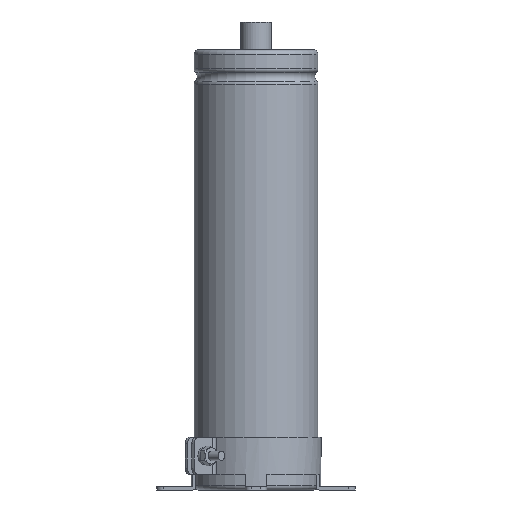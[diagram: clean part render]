
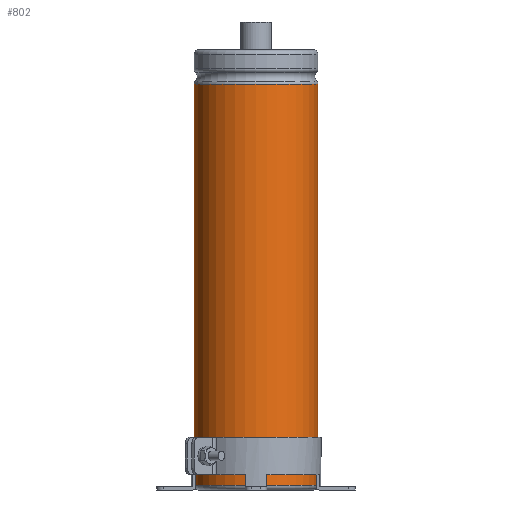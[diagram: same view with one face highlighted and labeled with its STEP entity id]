
A CAD part, front view. The second image highlights one B-rep face of the part: STEP entity #802.
In plain terms, the highlighted cylindrical face has radius 20 mm (diameter 40 mm), a partial arc.
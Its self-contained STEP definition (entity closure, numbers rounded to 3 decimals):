
#802=ADVANCED_FACE('',(#1108),#1013,.T.);
#1013=CYLINDRICAL_SURFACE('',#4619,20.);
#1108=FACE_OUTER_BOUND('',#1342,.T.);
#1342=EDGE_LOOP('',(#2357,#2358,#2359,#2360));
#1673=LINE('',#6877,#1877);
#1674=LINE('',#6881,#1878);
#1877=VECTOR('',#5418,1.);
#1878=VECTOR('',#5421,1.);
#2357=ORIENTED_EDGE('',*,*,#3774,.T.);
#2358=ORIENTED_EDGE('',*,*,#3775,.T.);
#2359=ORIENTED_EDGE('',*,*,#3776,.F.);
#2360=ORIENTED_EDGE('',*,*,#3777,.F.);
#3308=VERTEX_POINT('',#6870);
#3310=VERTEX_POINT('',#6874);
#3311=VERTEX_POINT('',#6878);
#3312=VERTEX_POINT('',#6880);
#3774=EDGE_CURVE('',#3308,#3310,#4260,.T.);
#3775=EDGE_CURVE('',#3310,#3311,#1673,.T.);
#3776=EDGE_CURVE('',#3312,#3311,#4261,.T.);
#3777=EDGE_CURVE('',#3308,#3312,#1674,.T.);
#4260=CIRCLE('',#4616,20.);
#4261=CIRCLE('',#4618,20.);
#4616=AXIS2_PLACEMENT_3D('',#6875,#5414,#5415);
#4618=AXIS2_PLACEMENT_3D('',#6879,#5419,#5420);
#4619=AXIS2_PLACEMENT_3D('',#6882,#5422,#5423);
#5414=DIRECTION('',(0.,0.,-1.));
#5415=DIRECTION('',(0.,1.,0.));
#5418=DIRECTION('',(0.,0.,-1.));
#5419=DIRECTION('',(0.,0.,-1.));
#5420=DIRECTION('',(0.,1.,0.));
#5421=DIRECTION('',(0.,0.,-1.));
#5422=DIRECTION('',(0.,0.,-1.));
#5423=DIRECTION('',(0.,1.,0.));
#6870=CARTESIAN_POINT('',(3.987,19.598,130.9));
#6874=CARTESIAN_POINT('',(-3.987,19.598,130.9));
#6875=CARTESIAN_POINT('',(0.,0.,130.9));
#6877=CARTESIAN_POINT('',(-3.987,19.598,130.9));
#6878=CARTESIAN_POINT('',(-3.987,19.598,1.5));
#6879=CARTESIAN_POINT('',(0.,0.,1.5));
#6880=CARTESIAN_POINT('',(3.987,19.598,1.5));
#6881=CARTESIAN_POINT('',(3.987,19.598,130.9));
#6882=CARTESIAN_POINT('',(0.,0.,0.));
